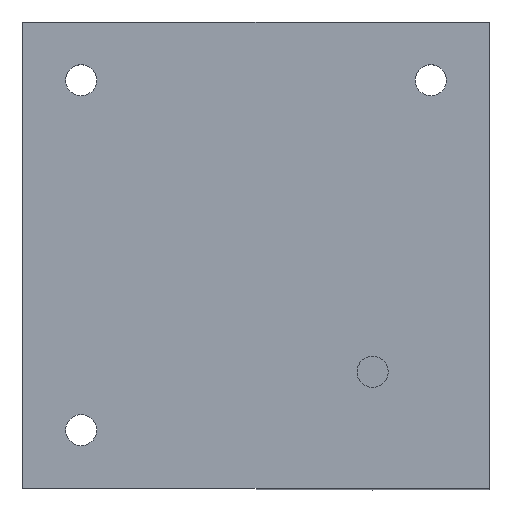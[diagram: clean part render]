
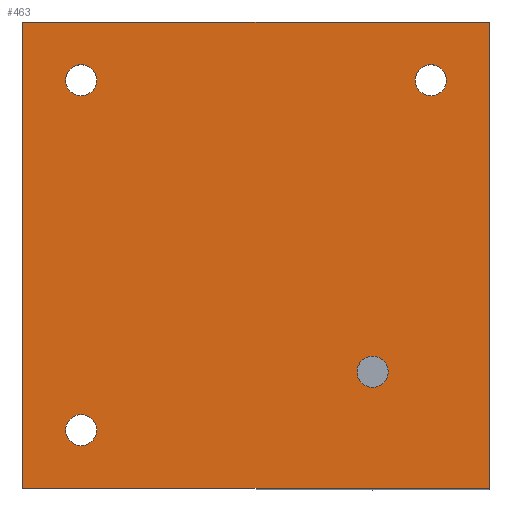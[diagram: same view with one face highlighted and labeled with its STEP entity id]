
A CAD part, top view. The second image highlights one B-rep face of the part: STEP entity #463.
In plain terms, the highlighted planar face has unit normal (0, 0, 1).
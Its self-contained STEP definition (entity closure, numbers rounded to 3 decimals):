
#233 = VERTEX_POINT( '', #640 );
#239 = EDGE_CURVE( '', #355, #449, #647, .T. );
#241 = VERTEX_POINT( '', #649 );
#255 = EDGE_CURVE( '', #241, #565, #664, .T. );
#257 = EDGE_CURVE( '', #601, #309, #666, .T. );
#265 = EDGE_CURVE( '', #449, #355, #674, .T. );
#281 = EDGE_CURVE( '', #565, #241, #695, .T. );
#287 = EDGE_CURVE( '', #291, #331, #702, .T. );
#291 = VERTEX_POINT( '', #706 );
#293 = EDGE_CURVE( '', #437, #291, #708, .T. );
#305 = EDGE_CURVE( '', #309, #601, #722, .T. );
#309 = VERTEX_POINT( '', #726 );
#331 = VERTEX_POINT( '', #752 );
#345 = EDGE_CURVE( '', #331, #429, #767, .T. );
#355 = VERTEX_POINT( '', #780 );
#409 = EDGE_CURVE( '', #429, #437, #834, .T. );
#429 = VERTEX_POINT( '', #855 );
#437 = VERTEX_POINT( '', #863 );
#449 = VERTEX_POINT( '', #875 );
#463 = ADVANCED_FACE( '', ( #889, #890, #891, #892, #893 ), #894, .T. );
#527 = VERTEX_POINT( '', #969 );
#547 = EDGE_CURVE( '', #527, #233, #992, .T. );
#565 = VERTEX_POINT( '', #1012 );
#593 = EDGE_CURVE( '', #233, #527, #1044, .T. );
#601 = VERTEX_POINT( '', #1052 );
#640 = CARTESIAN_POINT( '', ( 13., -15., 0. ) );
#647 = CIRCLE( '', #1091, 2. );
#649 = CARTESIAN_POINT( '', ( -24.5, 22.5, 0. ) );
#664 = CIRCLE( '', #1115, 2. );
#666 = CIRCLE( '', #1118, 2. );
#674 = CIRCLE( '', #1130, 2. );
#695 = CIRCLE( '', #1156, 2. );
#702 = LINE( '', #1164, #1165 );
#706 = CARTESIAN_POINT( '', ( -30., 30., 0. ) );
#708 = LINE( '', #1172, #1173 );
#722 = CIRCLE( '', #1194, 2. );
#726 = CARTESIAN_POINT( '', ( -20.5, -22.5, 0. ) );
#752 = CARTESIAN_POINT( '', ( -30., -30., 0. ) );
#767 = LINE( '', #1260, #1261 );
#780 = CARTESIAN_POINT( '', ( 24.5, 22.5, 0. ) );
#834 = LINE( '', #1359, #1360 );
#855 = CARTESIAN_POINT( '', ( 30., -30., 0. ) );
#863 = CARTESIAN_POINT( '', ( 30., 30., 0. ) );
#875 = CARTESIAN_POINT( '', ( 20.5, 22.5, 0. ) );
#889 = FACE_BOUND( '', #1438, .T. );
#890 = FACE_OUTER_BOUND( '', #1439, .T. );
#891 = FACE_BOUND( '', #1440, .T. );
#892 = FACE_BOUND( '', #1441, .T. );
#893 = FACE_BOUND( '', #1442, .T. );
#894 = PLANE( '', #1443 );
#969 = CARTESIAN_POINT( '', ( 17., -15., 0. ) );
#992 = CIRCLE( '', #1573, 2. );
#1012 = CARTESIAN_POINT( '', ( -20.5, 22.5, 0. ) );
#1044 = CIRCLE( '', #1646, 2. );
#1052 = CARTESIAN_POINT( '', ( -24.5, -22.5, 0. ) );
#1091 = AXIS2_PLACEMENT_3D( '', #1705, #1706, #1707 );
#1115 = AXIS2_PLACEMENT_3D( '', #1719, #1720, #1721 );
#1118 = AXIS2_PLACEMENT_3D( '', #1722, #1723, #1724 );
#1130 = AXIS2_PLACEMENT_3D( '', #1729, #1730, #1731 );
#1156 = AXIS2_PLACEMENT_3D( '', #1773, #1774, #1775 );
#1164 = CARTESIAN_POINT( '', ( -30., 30., 0. ) );
#1165 = VECTOR( '', #1784, 1. );
#1172 = CARTESIAN_POINT( '', ( 30., 30., 0. ) );
#1173 = VECTOR( '', #1785, 1. );
#1194 = AXIS2_PLACEMENT_3D( '', #1799, #1800, #1801 );
#1260 = CARTESIAN_POINT( '', ( -30., -30., 0. ) );
#1261 = VECTOR( '', #1855, 1. );
#1359 = CARTESIAN_POINT( '', ( 30., -30., 0. ) );
#1360 = VECTOR( '', #1906, 1. );
#1438 = EDGE_LOOP( '', ( #1935, #1936 ) );
#1439 = EDGE_LOOP( '', ( #1937, #1938, #1939, #1940 ) );
#1440 = EDGE_LOOP( '', ( #1941, #1942 ) );
#1441 = EDGE_LOOP( '', ( #1943, #1944 ) );
#1442 = EDGE_LOOP( '', ( #1945, #1946 ) );
#1443 = AXIS2_PLACEMENT_3D( '', #1947, #1948, #1949 );
#1573 = AXIS2_PLACEMENT_3D( '', #2068, #2069, #2070 );
#1646 = AXIS2_PLACEMENT_3D( '', #2134, #2135, #2136 );
#1705 = CARTESIAN_POINT( '', ( 22.5, 22.5, 0. ) );
#1706 = DIRECTION( '', ( 0., 0., 1. ) );
#1707 = DIRECTION( '', ( 1., 0., 0. ) );
#1719 = CARTESIAN_POINT( '', ( -22.5, 22.5, 0. ) );
#1720 = DIRECTION( '', ( 0., 0., 1. ) );
#1721 = DIRECTION( '', ( 1., 0., 0. ) );
#1722 = CARTESIAN_POINT( '', ( -22.5, -22.5, 0. ) );
#1723 = DIRECTION( '', ( 0., 0., 1. ) );
#1724 = DIRECTION( '', ( 1., 0., 0. ) );
#1729 = CARTESIAN_POINT( '', ( 22.5, 22.5, 0. ) );
#1730 = DIRECTION( '', ( 0., 0., 1. ) );
#1731 = DIRECTION( '', ( 1., 0., 0. ) );
#1773 = CARTESIAN_POINT( '', ( -22.5, 22.5, 0. ) );
#1774 = DIRECTION( '', ( 0., 0., 1. ) );
#1775 = DIRECTION( '', ( 1., 0., 0. ) );
#1784 = DIRECTION( '', ( 0., -1., 0. ) );
#1785 = DIRECTION( '', ( -1., 0., 0. ) );
#1799 = CARTESIAN_POINT( '', ( -22.5, -22.5, 0. ) );
#1800 = DIRECTION( '', ( 0., 0., 1. ) );
#1801 = DIRECTION( '', ( 1., 0., 0. ) );
#1855 = DIRECTION( '', ( 1., 0., 0. ) );
#1906 = DIRECTION( '', ( 0., 1., 0. ) );
#1935 = ORIENTED_EDGE( '', *, *, #547, .T. );
#1936 = ORIENTED_EDGE( '', *, *, #593, .T. );
#1937 = ORIENTED_EDGE( '', *, *, #287, .T. );
#1938 = ORIENTED_EDGE( '', *, *, #345, .T. );
#1939 = ORIENTED_EDGE( '', *, *, #409, .T. );
#1940 = ORIENTED_EDGE( '', *, *, #293, .T. );
#1941 = ORIENTED_EDGE( '', *, *, #239, .F. );
#1942 = ORIENTED_EDGE( '', *, *, #265, .F. );
#1943 = ORIENTED_EDGE( '', *, *, #305, .F. );
#1944 = ORIENTED_EDGE( '', *, *, #257, .F. );
#1945 = ORIENTED_EDGE( '', *, *, #281, .F. );
#1946 = ORIENTED_EDGE( '', *, *, #255, .F. );
#1947 = CARTESIAN_POINT( '', ( 0., 0., 0. ) );
#1948 = DIRECTION( '', ( 0., 0., 1. ) );
#1949 = DIRECTION( '', ( 1., 0., 0. ) );
#2068 = CARTESIAN_POINT( '', ( 15., -15., 0. ) );
#2069 = DIRECTION( '', ( 0., 0., -1. ) );
#2070 = DIRECTION( '', ( 1., 0., 0. ) );
#2134 = CARTESIAN_POINT( '', ( 15., -15., 0. ) );
#2135 = DIRECTION( '', ( 0., 0., -1. ) );
#2136 = DIRECTION( '', ( 1., 0., 0. ) );
